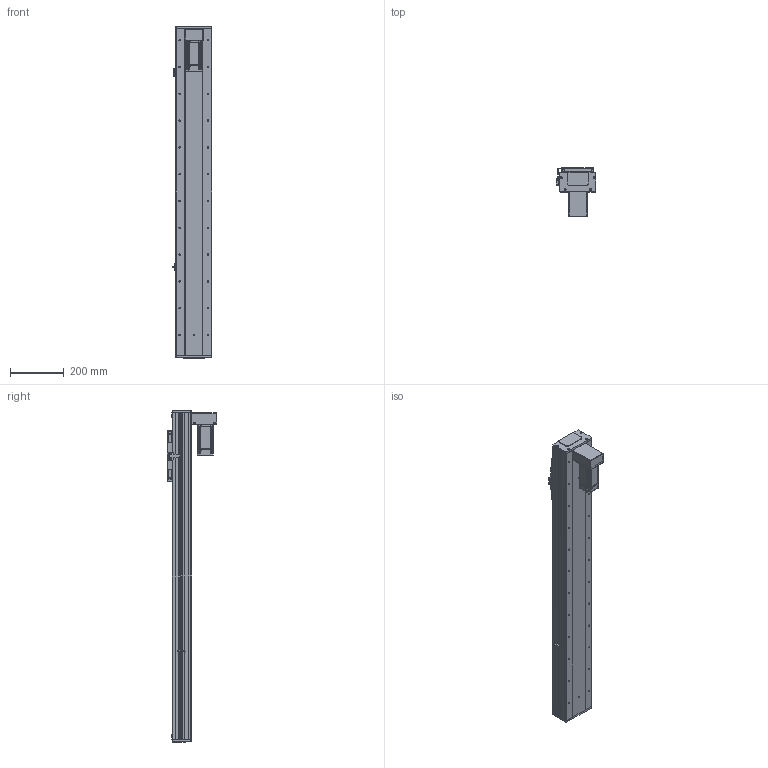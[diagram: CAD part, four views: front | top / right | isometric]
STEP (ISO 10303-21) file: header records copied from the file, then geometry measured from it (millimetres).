
FILE_DESCRIPTION (( 'STEP AP203' ), '1' );
FILE_NAME ('RY140F-L2020-300-BK.SLDASM_950.step', '2021-03-02T08:27:11', ( '盈信电脑' ), ( '东莞市道滘镇水果街19号' ), 'SwSTEP 2.0', 'SolidWorks 2012', '' );
FILE_SCHEMA (( 'CONFIG_CONTROL_DESIGN' ));
Length unit declared in the file: millimetre
Products named in the file (21): 滅袉蝶18-10; RY140F-直连型材铝滑块(16丝杆); RY140F-L2020-300-BK.SLDASM_950; RY140F-狟殏萇儂欶(400W); RY140F-詩湍嘐隅輸; RY140F-狟殏萇儂啣(400W M5); 侐源滅袉蝶; 覜茼ん672; RY140F-詩湍揤え; RY140F-672覜茼んえ; RY140F-后盖板(铝件）; 侂狟400W侜督萇儂; 15; RY100F-詩湍揤踡謫; 藻笠沭; RY140F-詩湍幗謫粣; RY140F-直连型材铝滑块连接座; RY140F-滅鳥奻裔; RY140F-300-BK蛌殏詩湍_950; RY140F-300-BK倰第奻裔啣_950; RY140F-300-BK倰第菁釱_950
Assembly tree (26 placements, depth 3):
  RY140F-L2020-300-BK.SLDASM_950
    RY140F-300-BK倰第菁釱_950
    RY140F-300-BK倰第奻裔啣_950  x2
    RY140F-300-BK蛌殏詩湍_950
    RY140F-直连型材铝滑块连接座
    RY140F-滅鳥奻裔
    RY140F-詩湍幗謫粣
    藻笠沭  x2
    RY100F-詩湍揤踡謫
    RY140F-后盖板(铝件）  x2
    侂狟400W侜督萇儂
      15
    覜茼ん672
    RY140F-672覜茼んえ
    RY140F-詩湍揤え  x2
    侐源滅袉蝶  x2
    RY140F-狟殏萇儂啣(400W M5)
    RY140F-狟殏萇儂欶(400W)
    RY140F-詩湍嘐隅輸
    滅袉蝶18-10  x2
    RY140F-直连型材铝滑块(16丝杆)
Bounding box: 148.7 x 184.5 x 1239 mm (x, y, z)
Volume: 4661677.4 mm3; surface area: 1662093.6 mm2
Topology: 25 solids, 25 shells, 2060 faces, 5632 edges, 3582 vertices
Faces by surface type: cylinder 1003, plane 811, cone 220, bspline 22, torus 4
Entity records: 64740 total; most frequent: CARTESIAN_POINT 13557, DIRECTION 10359, ORIENTED_EDGE 10052, EDGE_CURVE 5026, AXIS2_PLACEMENT_3D 3712, VERTEX_POINT 3286, LINE 2935, VECTOR 2935
